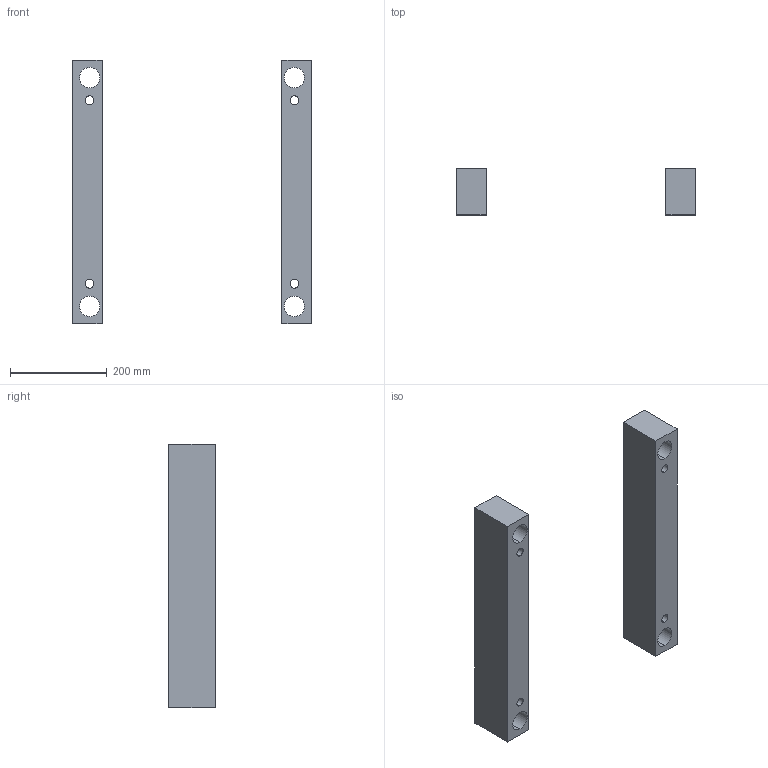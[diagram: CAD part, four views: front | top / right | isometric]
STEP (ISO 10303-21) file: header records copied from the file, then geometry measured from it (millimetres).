
FILE_DESCRIPTION (( 'STEP AP214' ), '1' );
FILE_NAME ('L50_496x546x096.STEP', '2018-10-05T18:59:01', ( '' ), ( '' ), 'SwSTEP 2.0', 'SolidWorks 2014', '' );
FILE_SCHEMA (( 'AUTOMOTIVE_DESIGN' ));
Length unit declared in the file: millimetre
Products named in the file (1): L50_496x546x096
Bounding box: 496 x 96 x 546 mm (x, y, z)
Volume: 5869858 mm3; surface area: 428143 mm2
Topology: 2 solids, 2 shells, 28 faces, 72 edges, 48 vertices
Faces by surface type: cylinder 16, plane 12
Entity records: 943 total; most frequent: DIRECTION 162, CARTESIAN_POINT 149, ORIENTED_EDGE 144, EDGE_CURVE 72, AXIS2_PLACEMENT_3D 61, VERTEX_POINT 48, EDGE_LOOP 44, LINE 40
